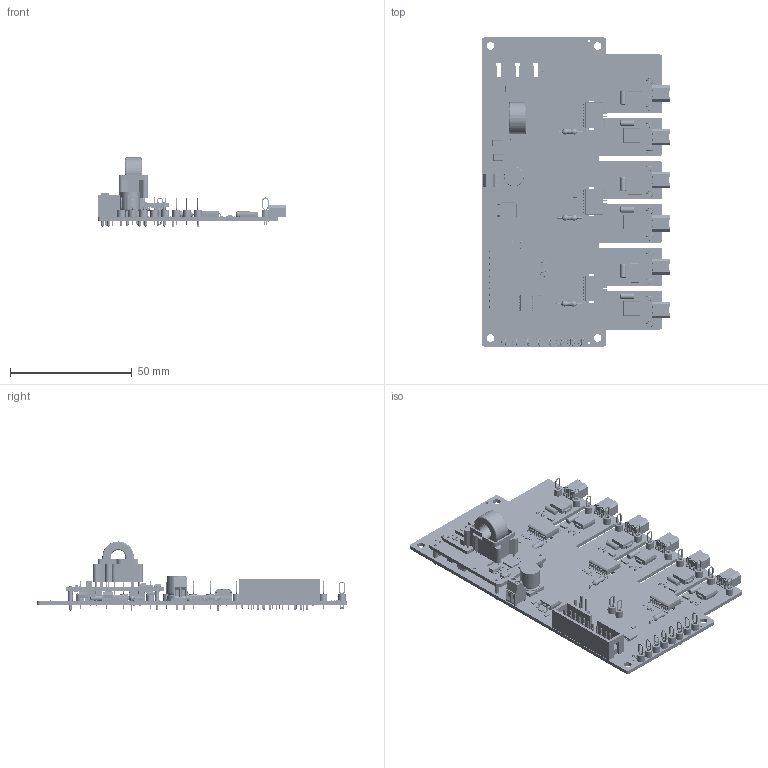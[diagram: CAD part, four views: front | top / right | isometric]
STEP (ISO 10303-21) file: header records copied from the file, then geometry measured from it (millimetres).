
FILE_DESCRIPTION(('for SolidWorks'),'2;1');
FILE_NAME('E:\Google Drive\03 Research & Development Projects\02 Gate Drive Circuit\07 3D Modeling\STEPS\GDS-2A6S1-PX.step','2015-11-08T02:34:09' ,('ghayurshah'),(''),'Open CASCADE STEP processor 6.6','Diptrace', 'Unknown');
FILE_SCHEMA(('AUTOMOTIVE_DESIGN { 1 0 10303 214 1 1 1 1 }'));
Length unit declared in the file: millimetre
Products named in the file (24): PCB; Board; Model_2; Model_6; Model_13; Model_19; Model_21; Model_42; Model_49; Model_59; Model_61; Model_64; Model_66; Model_73; Model_110; Model_117; Model_121; Model_128; Model_142; Model_144; Model_147; Model_151; Model_153; Model_155
Assembly tree (134 placements, depth 2):
  PCB
    Board
    Model_2  x3
    Model_6  x6
    Model_13  x5
    Model_19
    Model_21  x20
    Model_42  x6
    Model_49  x9
    Model_59
    Model_61  x2
    Model_64
    Model_66  x6
    Model_73  x36
    Model_110  x6
    Model_117  x3
    Model_121  x6
    Model_128  x13
    Model_142
    Model_144  x2
    Model_147  x3
    Model_151
    Model_153
    Model_155
Bounding box: 77.25 x 127 x 28.36 mm (x, y, z)
Volume: 13875 mm3; surface area: 36421.1 mm2
Topology: 1 solids, 421 shells, 13833 faces, 34047 edges, 21246 vertices
Faces by surface type: plane 8456, bspline 2868, cylinder 1971, sphere 274, torus 204, cone 60
Full cylindrical faces by diameter (mm): 1.05 x4, 3.2 x4
Entity records: 218662 total; most frequent: CARTESIAN_POINT 61046, ORIENTED_EDGE 25812, DIRECTION 23361, EDGE_CURVE 12937, LINE 9591, VECTOR 9591, VERTEX_POINT 8116, AXIS2_PLACEMENT_3D 6885
